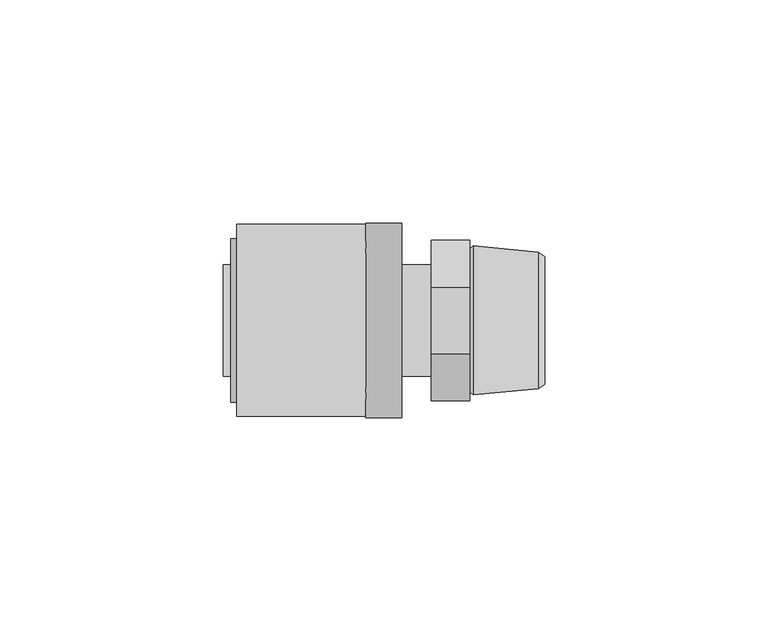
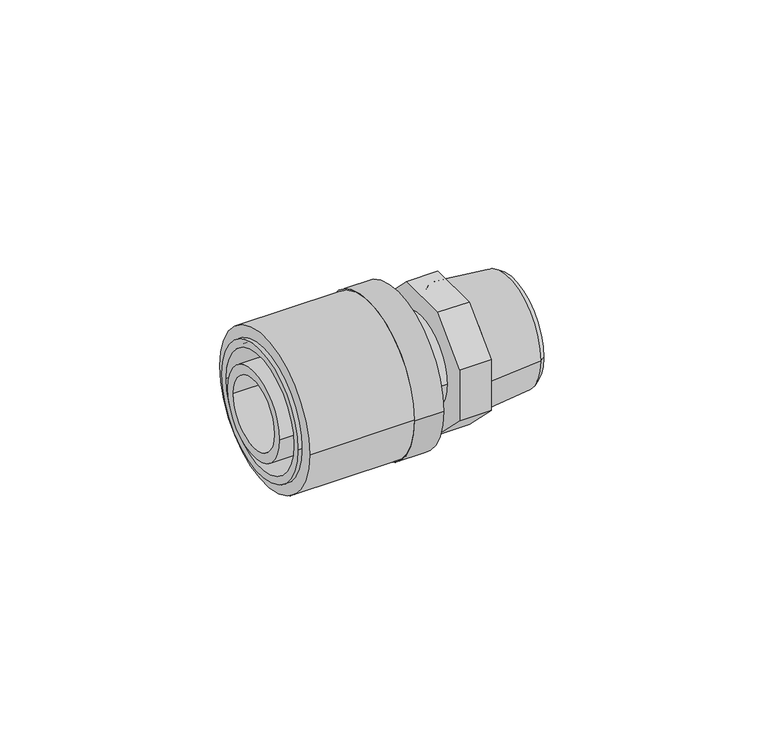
"""IFC4 building model written with IfcOpenShell, lengths in millimetres: pipe fitting geometry, FASTLOC_Adapter_RX+, with external thread : FSL A C external EX+ AT."""

from ifc_helpers import new_model, si_unit, point, frame, origin, origin_2d, place, context, project, spatial, polyline, circle_curve, trimmed, segment, composite_curve, outline, extrude, source, transform, mapped, element, save
from ifc_brep_helpers import plane_surface, cylinder_surface, revolved_surface, advanced_brep


def pipe_fitting_a4fef31a(model_context):
    return source(origin(), model_context, "Body", "SolidModel", [
        extrude(outline(composite_curve([segment(trimmed(circle_curve(origin_2d(), 21.5), [point((21.5, 0.0))], [point((-21.5, 0.0))], False, "CARTESIAN"), True, "CONTINUOUS"), segment(trimmed(circle_curve(origin_2d(), 21.5), [point((-21.5, 0.0))], [point((21.5, 0.0))], False, "CARTESIAN"), True, "CONTINUOUS")], self_intersect=False), holes=[composite_curve([segment(trimmed(circle_curve(origin_2d(), 16.85), [point((16.85, 0.0))], [point((-16.85, 0.0))], True, "CARTESIAN"), True, "CONTINUOUS"), segment(trimmed(circle_curve(origin_2d(), 16.85), [point((-16.85, 0.0))], [point((16.85, 0.0))], True, "CARTESIAN"), True, "CONTINUOUS")], self_intersect=False)]), frame((-43.6, 0.0, 0.0), z_axis=(1.0, 0.0, 0.0), x_axis=(0.0, 1.0, 0.0)), (0.0, 0.0, 1.0), 29.0),
        advanced_brep(
        [(-14.6, -21.8, 0.0), (-14.6, 21.8, 0.0), (-6.6, 21.8, 0.0), (-6.6, -21.8, 0.0), (-44.9, -18.35, 0.0), (-44.9, 18.35, 0.0), (-14.6, 18.35, 0.0), (-14.6, -18.35, 0.0), (-6.6, -16.2, 0.0), (-6.6, 16.2, 0.0), (-44.9, 16.2, 0.0), (-44.9, -16.2, 0.0)],
        [
            (0, 1, circle_curve(frame((-14.6, 0.0, 0.0), z_axis=(1.0, 0.0, 0.0), x_axis=(0.0, 1.0, 0.0)), 21.8)),
            (1, 2),
            (2, 3, circle_curve(frame((-6.6, 0.0, 0.0), z_axis=(-1.0, 0.0, 0.0), x_axis=(0.0, 1.0, 0.0)), 21.8)),
            (3, 0),
            (4, 5, circle_curve(frame((-44.9, 0.0, 0.0), z_axis=(1.0, 0.0, 0.0), x_axis=(0.0, 1.0, 0.0)), 18.35)),
            (5, 6),
            (6, 7, circle_curve(frame((-14.6, 0.0, 0.0), z_axis=(-1.0, 0.0, 0.0), x_axis=(0.0, 1.0, 0.0)), 18.35)),
            (7, 4),
            (8, 9, circle_curve(frame((-6.6, 0.0, 0.0), z_axis=(1.0, 0.0, 0.0), x_axis=(0.0, 1.0, 0.0)), 16.2)),
            (9, 10),
            (10, 11, circle_curve(frame((-44.9, 0.0, 0.0), z_axis=(-1.0, 0.0, 0.0), x_axis=(0.0, 1.0, 0.0)), 16.2)),
            (11, 8),
            (1, 0, circle_curve(frame((-14.6, 0.0, 0.0), z_axis=(1.0, 0.0, 0.0), x_axis=(0.0, -1.0, 0.0)), 21.8)),
            (3, 2, circle_curve(frame((-6.6, 0.0, 0.0), z_axis=(-1.0, 0.0, 0.0), x_axis=(0.0, -1.0, 0.0)), 21.8)),
            (6, 7, circle_curve(frame((-14.6, 0.0, 0.0), z_axis=(1.0, 0.0, 0.0), x_axis=(0.0, -1.0, 0.0)), 18.35)),
            (5, 4, circle_curve(frame((-44.9, 0.0, 0.0), z_axis=(1.0, 0.0, 0.0), x_axis=(0.0, -1.0, 0.0)), 18.35)),
            (10, 11, circle_curve(frame((-44.9, 0.0, 0.0), z_axis=(1.0, 0.0, 0.0), x_axis=(0.0, -1.0, 0.0)), 16.2)),
            (9, 8, circle_curve(frame((-6.6, 0.0, 0.0), z_axis=(1.0, 0.0, 0.0), x_axis=(0.0, -1.0, 0.0)), 16.2)),
        ],
        [
            cylinder_surface(frame((-6.6, 0.0, 0.0), z_axis=(-1.0, 0.0, 0.0), x_axis=(0.0, 1.0, 0.0)), 21.8),
            cylinder_surface(frame((-6.6, 0.0, 0.0), z_axis=(-1.0, 0.0, 0.0), x_axis=(0.0, 1.0, 0.0)), 18.35),
            revolved_surface(polyline([(-44.9, 16.2, 0.0), (-6.6, 16.2, 0.0)]), (-6.6, 0.0, 0.0), (-1.0, 0.0, 0.0)),
            cylinder_surface(frame((-6.6, 0.0, 0.0), z_axis=(-1.0, 0.0, 0.0), x_axis=(0.0, -1.0, 0.0)), 21.8),
            plane_surface(frame((-14.6, 0.0, 0.0), z_axis=(-1.0, 0.0, 0.0), x_axis=(0.0, -1.0, 0.0))),
            cylinder_surface(frame((-6.6, 0.0, 0.0), z_axis=(-1.0, 0.0, 0.0), x_axis=(0.0, -1.0, 0.0)), 18.35),
            plane_surface(frame((-44.9, 0.0, 0.0), z_axis=(-1.0, 0.0, 0.0), x_axis=(0.0, -1.0, 0.0))),
            revolved_surface(polyline([(-44.9, -16.2, 0.0), (-6.6, -16.2, 0.0)]), (-6.6, 0.0, 0.0), (-1.0, 0.0, 0.0)),
            plane_surface(frame((-6.6, 0.0, 0.0), z_axis=(1.0, 0.0, 0.0), x_axis=(0.0, -1.0, 0.0))),
        ],
        [
            (0, [[1, 2, 3, 4]]),
            (1, [[5, 6, 7, 8]]),
            (2, [[9, 10, 11, 12]]),
            (3, [[13, -4, 14, -2]]),
            (4, [[-13, -1], [15, -7]]),
            (5, [[16, -8, -15, -6]]),
            (6, [[-16, -5], [17, -11]]),
            (7, [[18, -12, -17, -10]]),
            (8, [[-14, -3], [-18, -9]]),
        ],
    ),
        advanced_brep(
        [(9.8032803, 12.0, 0.0), (9.8032803, -12.0, 0.0), (25.5, -12.0, 0.0), (25.5, 12.0, 0.0), (8.7, 10.8967197, 0.0), (8.7, -10.8967197, 0.0), (9.4406902, 16.7, 0.0), (9.4406902, -16.7, 0.0), (8.7, -16.1, 0.0), (8.7, 16.1, 0.0), (24.0000007, 15.3, 0.0), (24.0000007, -15.3, 0.0), (25.5, 14.3, 0.0), (25.5, -14.3, 0.0)],
        [
            (0, 1, circle_curve(frame((9.8032803, 0.0, 0.0), z_axis=(-1.0, 0.0, 0.0), x_axis=(0.0, -1.0, 0.0)), 12.0)),
            (1, 2),
            (2, 3, circle_curve(frame((25.5, 0.0, 0.0), z_axis=(1.0, 0.0, 0.0), x_axis=(0.0, -1.0, 0.0)), 12.0)),
            (3, 0),
            (4, 5, circle_curve(frame((8.7, 0.0, 0.0), z_axis=(-1.0, 0.0, 0.0), x_axis=(0.0, -1.0, 0.0)), 10.8967197)),
            (5, 1),
            (0, 4),
            (6, 7, circle_curve(frame((9.4406902, 0.0, 0.0), z_axis=(-1.0, 0.0, 0.0), x_axis=(0.0, -1.0, 0.0)), 16.7)),
            (7, 8),
            (8, 9, circle_curve(frame((8.7, 0.0, 0.0), z_axis=(1.0, 0.0, 0.0), x_axis=(0.0, -1.0, 0.0)), 16.1)),
            (9, 6),
            (10, 11, circle_curve(frame((24.0000007, 0.0, 0.0), z_axis=(-1.0, 0.0, 0.0), x_axis=(0.0, -1.0, 0.0)), 15.3)),
            (11, 7),
            (6, 10),
            (12, 13, circle_curve(frame((25.5, 0.0, 0.0), z_axis=(-1.0, 0.0, 0.0), x_axis=(0.0, -1.0, 0.0)), 14.3)),
            (13, 11),
            (10, 12),
            (1, 0, circle_curve(frame((9.8032803, 0.0, 0.0), z_axis=(-1.0, 0.0, 0.0), x_axis=(0.0, 1.0, 0.0)), 12.0)),
            (3, 2, circle_curve(frame((25.5, 0.0, 0.0), z_axis=(1.0, 0.0, 0.0), x_axis=(0.0, 1.0, 0.0)), 12.0)),
            (5, 4, circle_curve(frame((8.7, 0.0, 0.0), z_axis=(-1.0, 0.0, 0.0), x_axis=(0.0, 1.0, 0.0)), 10.8967197)),
            (8, 9, circle_curve(frame((8.7, 0.0, 0.0), z_axis=(-1.0, 0.0, 0.0), x_axis=(0.0, 1.0, 0.0)), 16.1)),
            (7, 6, circle_curve(frame((9.4406902, 0.0, 0.0), z_axis=(-1.0, 0.0, 0.0), x_axis=(0.0, 1.0, 0.0)), 16.7)),
            (11, 10, circle_curve(frame((24.0000007, 0.0, 0.0), z_axis=(-1.0, 0.0, 0.0), x_axis=(0.0, 1.0, 0.0)), 15.3)),
            (13, 12, circle_curve(frame((25.5, 0.0, 0.0), z_axis=(-1.0, 0.0, 0.0), x_axis=(0.0, 1.0, 0.0)), 14.3)),
        ],
        [
            revolved_surface(polyline([(25.5, -12.0, 0.0), (9.8032803, -12.0, 0.0)]), (0.0, 0.0, 0.0), (1.0, 0.0, 0.0)),
            revolved_surface(polyline([(9.8032803, -12.0, 0.0), (8.7, -10.8967197, 0.0)]), (0.0, 0.0, 0.0), (1.0, 0.0, 0.0)),
            revolved_surface(polyline([(8.7, -16.1, 0.0), (9.4406902, -16.7, 0.0)]), (0.0, 0.0, 0.0), (1.0, 0.0, 0.0)),
            revolved_surface(polyline([(9.4406902, -16.7, 0.0), (24.0000007, -15.3, 0.0)]), (0.0, 0.0, 0.0), (1.0, 0.0, 0.0)),
            revolved_surface(polyline([(24.0000007, -15.3, 0.0), (25.5, -14.3, 0.0)]), (0.0, 0.0, 0.0), (1.0, 0.0, 0.0)),
            revolved_surface(polyline([(25.5, 12.0, 0.0), (9.8032803, 12.0, 0.0)]), (0.0, 0.0, 0.0), (1.0, 0.0, 0.0)),
            revolved_surface(polyline([(9.8032803, 12.0, 0.0), (8.7, 10.8967197, 0.0)]), (0.0, 0.0, 0.0), (1.0, 0.0, 0.0)),
            plane_surface(frame((8.7, 0.0, 0.0), z_axis=(-1.0, 0.0, 0.0), x_axis=(0.0, 1.0, 0.0))),
            revolved_surface(polyline([(8.7, 16.1, 0.0), (9.4406902, 16.7, 0.0)]), (0.0, 0.0, 0.0), (1.0, 0.0, 0.0)),
            revolved_surface(polyline([(9.4406902, 16.7, 0.0), (24.0000007, 15.3, 0.0)]), (0.0, 0.0, 0.0), (1.0, 0.0, 0.0)),
            revolved_surface(polyline([(24.0000007, 15.3, 0.0), (25.5, 14.3, 0.0)]), (0.0, 0.0, 0.0), (1.0, 0.0, 0.0)),
            plane_surface(frame((25.5, 0.0, 0.0), z_axis=(1.0, 0.0, 0.0), x_axis=(0.0, 1.0, 0.0))),
        ],
        [
            (0, [[1, 2, 3, 4]]),
            (1, [[5, 6, -1, 7]]),
            (2, [[8, 9, 10, 11]]),
            (3, [[12, 13, -8, 14]]),
            (4, [[15, 16, -12, 17]]),
            (5, [[18, -4, 19, -2]]),
            (6, [[20, -7, -18, -6]]),
            (7, [[21, -10], [-20, -5]]),
            (8, [[22, -11, -21, -9]]),
            (9, [[23, -14, -22, -13]]),
            (10, [[24, -17, -23, -16]]),
            (11, [[-24, -15], [-19, -3]]),
        ],
    ),
        extrude(outline(polyline([(-18.0, 7.4558441), (-7.4558441, 18.0), (7.4558441, 18.0), (18.0, 7.4558441), (18.0, -7.4558441), (7.4558441, -18.0), (-7.4558441, -18.0), (-18.0, -7.4558441), (-18.0, 7.4558441)])), frame((0.0, 0.0, 0.0), z_axis=(1.0, 0.0, 0.0), x_axis=(0.0, 1.0, 0.0)), (0.0, 0.0, 1.0), 8.7),
        advanced_brep(
        [(-46.6, 9.85, 0.0), (-46.6, -9.85, 0.0), (0.0, -9.85, 0.0), (0.0, 9.85, 0.0), (0.0, 12.5, 0.0), (0.0, -12.5, 0.0), (-11.6, -12.5, 0.0), (-11.6, 12.5, 0.0), (-11.6, 14.1, 0.0), (-11.6, -14.1, 0.0), (-14.6, -14.1, 0.0), (-14.6, 14.1, 0.0), (-14.6, 12.5, 0.0), (-14.6, -12.5, 0.0), (-46.6, -12.5, 0.0), (-46.6, 12.5, 0.0)],
        [
            (0, 1, circle_curve(frame((-46.6, 0.0, 0.0), z_axis=(-1.0, 0.0, 0.0), x_axis=(0.0, -1.0, 0.0)), 9.85)),
            (1, 2),
            (2, 3, circle_curve(frame((0.0, 0.0, 0.0), z_axis=(1.0, 0.0, 0.0), x_axis=(0.0, -1.0, 0.0)), 9.85)),
            (3, 0),
            (4, 5, circle_curve(frame((0.0, 0.0, 0.0), z_axis=(-1.0, 0.0, 0.0), x_axis=(0.0, -1.0, 0.0)), 12.5)),
            (5, 6),
            (6, 7, circle_curve(frame((-11.6, 0.0, 0.0), z_axis=(1.0, 0.0, 0.0), x_axis=(0.0, -1.0, 0.0)), 12.5)),
            (7, 4),
            (8, 9, circle_curve(frame((-11.6, 0.0, 0.0), z_axis=(-1.0, 0.0, 0.0), x_axis=(0.0, -1.0, 0.0)), 14.1)),
            (9, 10),
            (10, 11, circle_curve(frame((-14.6, 0.0, 0.0), z_axis=(1.0, 0.0, 0.0), x_axis=(0.0, -1.0, 0.0)), 14.1)),
            (11, 8),
            (12, 13, circle_curve(frame((-14.6, 0.0, 0.0), z_axis=(-1.0, 0.0, 0.0), x_axis=(0.0, -1.0, 0.0)), 12.5)),
            (13, 14),
            (14, 15, circle_curve(frame((-46.6, 0.0, 0.0), z_axis=(1.0, 0.0, 0.0), x_axis=(0.0, -1.0, 0.0)), 12.5)),
            (15, 12),
            (1, 0, circle_curve(frame((-46.6, 0.0, 0.0), z_axis=(-1.0, 0.0, 0.0), x_axis=(0.0, 1.0, 0.0)), 9.85)),
            (3, 2, circle_curve(frame((0.0, 0.0, 0.0), z_axis=(1.0, 0.0, 0.0), x_axis=(0.0, 1.0, 0.0)), 9.85)),
            (4, 5, circle_curve(frame((0.0, 0.0, 0.0), z_axis=(1.0, 0.0, 0.0), x_axis=(0.0, 1.0, 0.0)), 12.5)),
            (7, 6, circle_curve(frame((-11.6, 0.0, 0.0), z_axis=(1.0, 0.0, 0.0), x_axis=(0.0, 1.0, 0.0)), 12.5)),
            (8, 9, circle_curve(frame((-11.6, 0.0, 0.0), z_axis=(1.0, 0.0, 0.0), x_axis=(0.0, 1.0, 0.0)), 14.1)),
            (11, 10, circle_curve(frame((-14.6, 0.0, 0.0), z_axis=(1.0, 0.0, 0.0), x_axis=(0.0, 1.0, 0.0)), 14.1)),
            (12, 13, circle_curve(frame((-14.6, 0.0, 0.0), z_axis=(1.0, 0.0, 0.0), x_axis=(0.0, 1.0, 0.0)), 12.5)),
            (15, 14, circle_curve(frame((-46.6, 0.0, 0.0), z_axis=(1.0, 0.0, 0.0), x_axis=(0.0, 1.0, 0.0)), 12.5)),
        ],
        [
            revolved_surface(polyline([(0.0, -9.85, 0.0), (-46.6, -9.85, 0.0)]), (0.0, 0.0, 0.0), (1.0, 0.0, 0.0)),
            cylinder_surface(frame((0.0, 0.0, 0.0), z_axis=(1.0, 0.0, 0.0), x_axis=(0.0, -1.0, 0.0)), 12.5),
            cylinder_surface(frame((0.0, 0.0, 0.0), z_axis=(1.0, 0.0, 0.0), x_axis=(0.0, -1.0, 0.0)), 14.1),
            revolved_surface(polyline([(0.0, 9.85, 0.0), (-46.6, 9.85, 0.0)]), (0.0, 0.0, 0.0), (1.0, 0.0, 0.0)),
            plane_surface(frame((0.0, 0.0, 0.0), z_axis=(1.0, 0.0, 0.0), x_axis=(0.0, 1.0, 0.0))),
            cylinder_surface(frame((0.0, 0.0, 0.0), z_axis=(1.0, 0.0, 0.0), x_axis=(0.0, 1.0, 0.0)), 12.5),
            plane_surface(frame((-11.6, 0.0, 0.0), z_axis=(1.0, 0.0, 0.0), x_axis=(0.0, 1.0, 0.0))),
            cylinder_surface(frame((0.0, 0.0, 0.0), z_axis=(1.0, 0.0, 0.0), x_axis=(0.0, 1.0, 0.0)), 14.1),
            plane_surface(frame((-14.6, 0.0, 0.0), z_axis=(-1.0, 0.0, 0.0), x_axis=(0.0, 1.0, 0.0))),
            plane_surface(frame((-46.6, 0.0, 0.0), z_axis=(-1.0, 0.0, 0.0), x_axis=(0.0, 1.0, 0.0))),
        ],
        [
            (0, [[1, 2, 3, 4]]),
            (1, [[5, 6, 7, 8]]),
            (2, [[9, 10, 11, 12]]),
            (1, [[13, 14, 15, 16]]),
            (3, [[17, -4, 18, -2]]),
            (4, [[19, -5], [-18, -3]]),
            (5, [[-19, -8, 20, -6]]),
            (6, [[21, -9], [-20, -7]]),
            (7, [[-21, -12, 22, -10]]),
            (8, [[-22, -11], [23, -13]]),
            (5, [[-23, -16, 24, -14]]),
            (9, [[-24, -15], [-17, -1]]),
        ],
    ),
    ])


if __name__ == "__main__":
    model = new_model("IFC4")
    model_context = context("Model", 3, world=origin())
    ifc_project = project(units=[si_unit("LENGTHUNIT", "METRE", prefix="MILLI")], contexts=[model_context])
    site = spatial("IfcSite", under=ifc_project)
    building = spatial("IfcBuilding", under=site)
    placement = place(None, origin())
    pipe_fitting_shape = pipe_fitting_a4fef31a(model_context)
    element("IfcPipeFitting", 1, ObjectType="FASTLOC_Adapter_RX+, with external thread : FSL A C external EX+ AT", at=placement, inside=building, context=model_context, shape_type="MappedRepresentation", body=[
        mapped(pipe_fitting_shape, transform((0.0, 0.0, 0.0), x_axis=(1.0, 0.0, 0.0), y_axis=(0.0, 1.0, 0.0), z_axis=(0.0, 0.0, 1.0))),
    ])
    save(model, "model.ifc")
